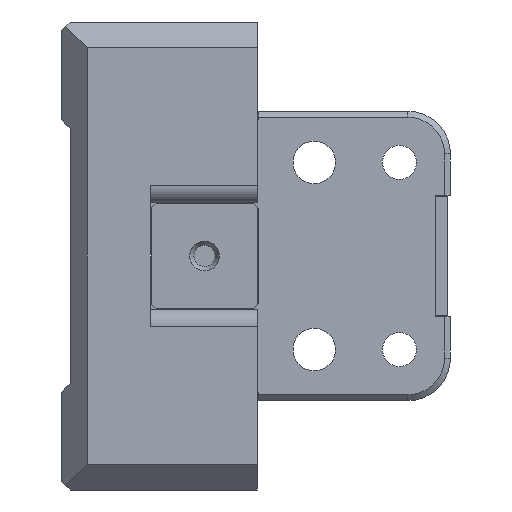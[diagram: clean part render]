
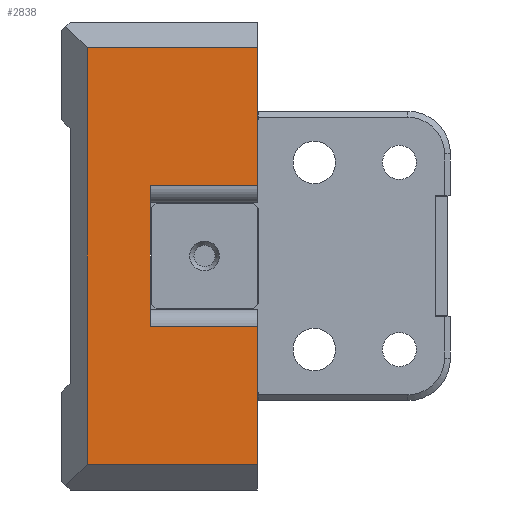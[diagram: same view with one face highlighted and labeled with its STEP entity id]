
A CAD part, left-side view. The second image highlights one B-rep face of the part: STEP entity #2838.
In plain terms, the highlighted planar face has unit normal (-1, 0, 0).
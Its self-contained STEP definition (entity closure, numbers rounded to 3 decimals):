
#85 = ORIENTED_EDGE ( 'NONE', *, *, #3624, .T. ) ;
#139 = EDGE_CURVE ( 'NONE', #4017, #2515, #673, .T. ) ;
#183 = DIRECTION ( 'NONE',  ( -1., 0., 0. ) ) ;
#202 = ORIENTED_EDGE ( 'NONE', *, *, #3040, .T. ) ;
#203 = LINE ( 'NONE', #623, #2218 ) ;
#290 = DIRECTION ( 'NONE',  ( 0., 0., -1. ) ) ;
#316 = CARTESIAN_POINT ( 'NONE',  ( -160., -3., 24.5 ) ) ;
#512 = DIRECTION ( 'NONE',  ( 0., 0., 1. ) ) ;
#558 = PLANE ( 'NONE',  #4898 ) ;
#575 = LINE ( 'NONE', #4347, #4553 ) ;
#623 = CARTESIAN_POINT ( 'NONE',  ( -160., -23., -24.5 ) ) ;
#642 = VERTEX_POINT ( 'NONE', #2330 ) ;
#673 = LINE ( 'NONE', #4241, #3969 ) ;
#727 = VECTOR ( 'NONE', #1488, 1000. ) ;
#734 = VECTOR ( 'NONE', #290, 1000. ) ;
#753 = EDGE_CURVE ( 'NONE', #2526, #5175, #4955, .T. ) ;
#793 = VECTOR ( 'NONE', #5297, 1000. ) ;
#835 = ORIENTED_EDGE ( 'NONE', *, *, #4852, .F. ) ;
#909 = CARTESIAN_POINT ( 'NONE',  ( -160., -23., 8.25 ) ) ;
#931 = CARTESIAN_POINT ( 'NONE',  ( -160., -23., -27.5 ) ) ;
#970 = DIRECTION ( 'NONE',  ( 0., -1., 0. ) ) ;
#1134 = ORIENTED_EDGE ( 'NONE', *, *, #139, .T. ) ;
#1224 = EDGE_CURVE ( 'NONE', #2526, #1736, #575, .T. ) ;
#1424 = CARTESIAN_POINT ( 'NONE',  ( -160., -10.4, -8.25 ) ) ;
#1488 = DIRECTION ( 'NONE',  ( 0., -1., 0. ) ) ;
#1538 = CARTESIAN_POINT ( 'NONE',  ( -160., -23., -8.25 ) ) ;
#1646 = VERTEX_POINT ( 'NONE', #3239 ) ;
#1736 = VERTEX_POINT ( 'NONE', #1424 ) ;
#1804 = DIRECTION ( 'NONE',  ( 0., -1., 0. ) ) ;
#1973 = LINE ( 'NONE', #4905, #793 ) ;
#2218 = VECTOR ( 'NONE', #1804, 1000. ) ;
#2226 = VERTEX_POINT ( 'NONE', #316 ) ;
#2229 = ORIENTED_EDGE ( 'NONE', *, *, #3255, .T. ) ;
#2314 = CARTESIAN_POINT ( 'NONE',  ( -160., -10.4, 8.25 ) ) ;
#2330 = CARTESIAN_POINT ( 'NONE',  ( -160., -3., -24.5 ) ) ;
#2515 = VERTEX_POINT ( 'NONE', #1538 ) ;
#2526 = VERTEX_POINT ( 'NONE', #2314 ) ;
#2590 = CARTESIAN_POINT ( 'NONE',  ( -160., -23., -27.5 ) ) ;
#2692 = CARTESIAN_POINT ( 'NONE',  ( -160., -10.4, 8.25 ) ) ;
#2748 = LINE ( 'NONE', #2590, #4829 ) ;
#2838 = ADVANCED_FACE ( 'NONE', ( #5028 ), #558, .T. ) ;
#2960 = ORIENTED_EDGE ( 'NONE', *, *, #3550, .T. ) ;
#3018 = DIRECTION ( 'NONE',  ( 0., 0., 1. ) ) ;
#3021 = ORIENTED_EDGE ( 'NONE', *, *, #753, .T. ) ;
#3040 = EDGE_CURVE ( 'NONE', #2226, #642, #4037, .T. ) ;
#3239 = CARTESIAN_POINT ( 'NONE',  ( -160., -23., 24.5 ) ) ;
#3255 = EDGE_CURVE ( 'NONE', #1646, #2226, #1973, .T. ) ;
#3437 = CARTESIAN_POINT ( 'NONE',  ( -160., -10.4, -8.25 ) ) ;
#3550 = EDGE_CURVE ( 'NONE', #5175, #1646, #2748, .T. ) ;
#3624 = EDGE_CURVE ( 'NONE', #642, #4017, #203, .T. ) ;
#3878 = CARTESIAN_POINT ( 'NONE',  ( -160., -23., -24.5 ) ) ;
#3969 = VECTOR ( 'NONE', #4367, 1000. ) ;
#4017 = VERTEX_POINT ( 'NONE', #3878 ) ;
#4037 = LINE ( 'NONE', #5189, #734 ) ;
#4112 = LINE ( 'NONE', #3437, #5042 ) ;
#4241 = CARTESIAN_POINT ( 'NONE',  ( -160., -23., -27.5 ) ) ;
#4306 = DIRECTION ( 'NONE',  ( 0., 0., -1. ) ) ;
#4347 = CARTESIAN_POINT ( 'NONE',  ( -160., -10.4, -8.25 ) ) ;
#4367 = DIRECTION ( 'NONE',  ( 0., 0., 1. ) ) ;
#4399 = ORIENTED_EDGE ( 'NONE', *, *, #1224, .F. ) ;
#4553 = VECTOR ( 'NONE', #4306, 1000. ) ;
#4829 = VECTOR ( 'NONE', #3018, 1000. ) ;
#4852 = EDGE_CURVE ( 'NONE', #1736, #2515, #4112, .T. ) ;
#4898 = AXIS2_PLACEMENT_3D ( 'NONE', #931, #183, #512 ) ;
#4905 = CARTESIAN_POINT ( 'NONE',  ( -160., -23., 24.5 ) ) ;
#4955 = LINE ( 'NONE', #2692, #727 ) ;
#5028 = FACE_OUTER_BOUND ( 'NONE', #5146, .T. ) ;
#5042 = VECTOR ( 'NONE', #970, 1000. ) ;
#5146 = EDGE_LOOP ( 'NONE', ( #202, #85, #1134, #835, #4399, #3021, #2960, #2229 ) ) ;
#5175 = VERTEX_POINT ( 'NONE', #909 ) ;
#5189 = CARTESIAN_POINT ( 'NONE',  ( -160., -3., -27.5 ) ) ;
#5297 = DIRECTION ( 'NONE',  ( 0., 1., 0. ) ) ;
